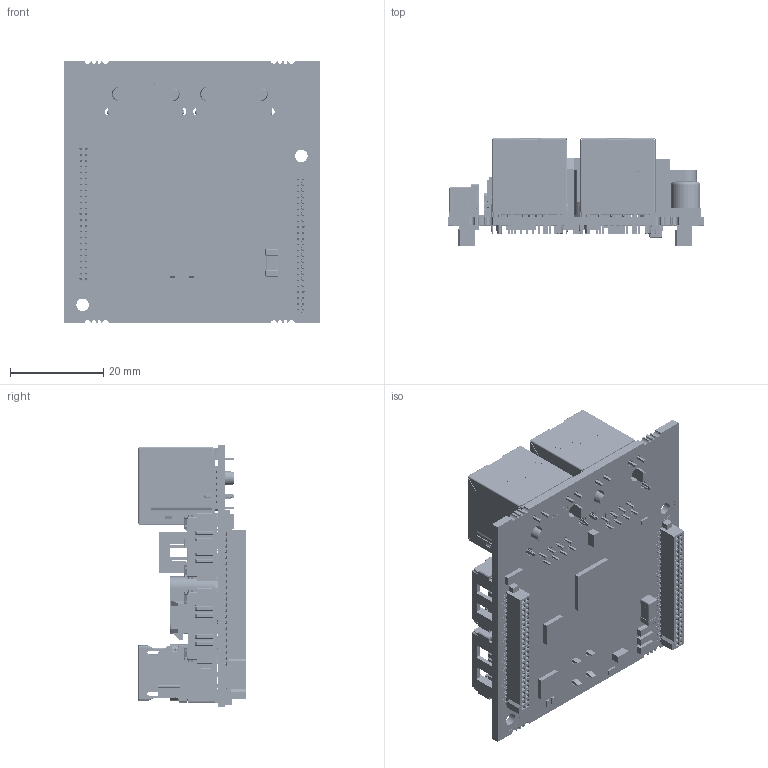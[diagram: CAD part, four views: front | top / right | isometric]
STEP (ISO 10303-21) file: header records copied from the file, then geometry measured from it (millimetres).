
FILE_DESCRIPTION((''),'2;1');
FILE_NAME('EPOS4_CB_ECAT_50_5_ASM','2018-11-22T',('MMAGRARI'),(''),'CREO PARAMETRIC BY PTC INC, 2017020','CREO PARAMETRIC BY PTC INC, 2017020','');
FILE_SCHEMA(('CONFIG_CONTROL_DESIGN'));
Products named in the file (81): EPOS4_CB_ECAT_50_5_PCB; EPOS4_CB_ECAT_50_5_PCB_SITO; EPOS4_CB_ECAT_50_5_PCB_SIBO; 039281043; 430450618; 5031541090; 5025840770; 52601-X10-8LF; 5025840870; DIP_SWITCH_2P_6; BASE_1_S; SHIELDING_1_S; ASSEM1_S_ASM; 74990101210_SINGLE_ASM; ELKO_F80; USER_LIBRARY-FUSE_NANO2; HARTING_HAR-FLEXICON_2_54_MSV-3; HARTING_HAR-FLEXICON_2_54_FPV-3; HARTING_HAR-FLEXICON_2_54-3_ASM; CUT-EXTRUDE11_45_; CUT-EXTRUDE11_11_; CUT-EXTRUDE11_46_; CUT-EXTRUDE11_12_; CUT-EXTRUDE11_13_; CUT-EXTRUDE11_3_; CUT-EXTRUDE11_16_; CUT-EXTRUDE11_17_; CUT-EXTRUDE11_24_; CUT-EXTRUDE11_15_; CUT-EXTRUDE11_14_; CUT-EXTRUDE11_25_; COMBINE2; CUT-EXTRUDE11_9_; CUT-EXTRUDE11_23_; CUT-EXTRUDE11_20_; CUT-EXTRUDE11_19_; CUT-EXTRUDE11_26_; CUT-EXTRUDE11_21_; CUT-EXTRUDE11_27_; CUT-EXTRUDE11_22_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
Assembly tree (91 placements, depth 4):
  EPOS4_CB_ECAT_50_5_ASM
    EPOS4_CB_ECAT_50_5_PCB
    EPOS4_CB_ECAT_50_5_PCB_SITO
    EPOS4_CB_ECAT_50_5_PCB_SIBO
    039281043
    430450618
    5031541090
    5025840770
    52601-X10-8LF
    5025840870  x2
    DIP_SWITCH_2P_6
    74990101210_SINGLE_ASM  x2
      ASSEM1_S_ASM
        BASE_1_S
        SHIELDING_1_S
    ELKO_F80
    USER_LIBRARY-FUSE_NANO2
    HARTING_HAR-FLEXICON_2_54-3_ASM
      HARTING_HAR-FLEXICON_2_54_MSV-3
      HARTING_HAR-FLEXICON_2_54_FPV-3
    SFH31-_____B-D23-SP_ASM  x2
      11165__SFH31-NP_B-D23-SP-____ASM
        CUT-EXTRUDE11_45_
        CUT-EXTRUDE11_11_
        CUT-EXTRUDE11_46_
        CUT-EXTRUDE11_12_
        CUT-EXTRUDE11_13_
        CUT-EXTRUDE11_3_
        CUT-EXTRUDE11_16_
        CUT-EXTRUDE11_17_
        CUT-EXTRUDE11_24_
        CUT-EXTRUDE11_15_
        CUT-EXTRUDE11_14_
        CUT-EXTRUDE11_25_
        COMBINE2
        CUT-EXTRUDE11_9_
        CUT-EXTRUDE11_23_
        CUT-EXTRUDE11_20_
        CUT-EXTRUDE11_19_
        CUT-EXTRUDE11_26_
        CUT-EXTRUDE11_21_
        CUT-EXTRUDE11_27_
        CUT-EXTRUDE11_22_
        CUT-EXTRUDE11_28_
        CUT-EXTRUDE11_6_
        CUT-EXTRUDE11_29_
        CUT-EXTRUDE11_2_
        CUT-EXTRUDE11_30_
        CUT-EXTRUDE11_31_
        CUT-EXTRUDE11_32_
        CUT-EXTRUDE11_1_
        CUT-EXTRUDE11_4_
        CUT-EXTRUDE11_33_
        CUT-EXTRUDE11_8_
        CUT-EXTRUDE11_34_
        CUT-EXTRUDE11_5_
        CUT-EXTRUDE11_35_
        CUT-EXTRUDE11_36_
        CUT-EXTRUDE11_37_
        CUT-EXTRUDE11_18_
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Bounding box: 55 x 23.1 x 56.5 mm (x, y, z)
Volume: 21866.5 mm3; surface area: 45832.9 mm2
Topology: 146 solids, 146 shells, 19784 faces, 55723 edges, 36355 vertices
Faces by surface type: plane 13516, cylinder 4634, extrusion 993, torus 484, bspline 96, cone 37, sphere 24
Entity records: 538852 total; most frequent: CARTESIAN_POINT 86283, ORIENTED_EDGE 72550, DIRECTION 64907, PRESENTATION_STYLE_ASSIGNMENT 36979, EDGE_CURVE 36275, STYLED_ITEM 36167, CURVE_STYLE 35583, VECTOR 28945
